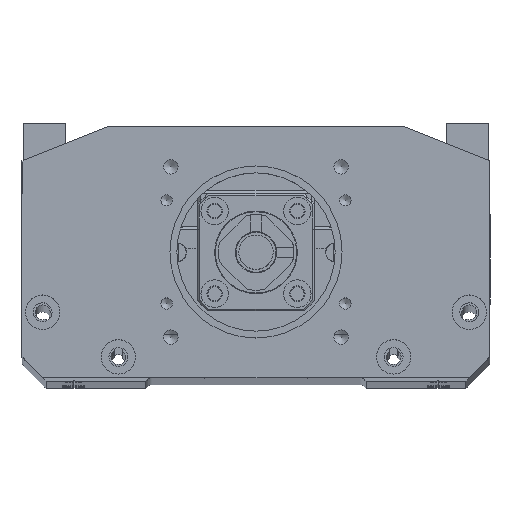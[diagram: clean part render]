
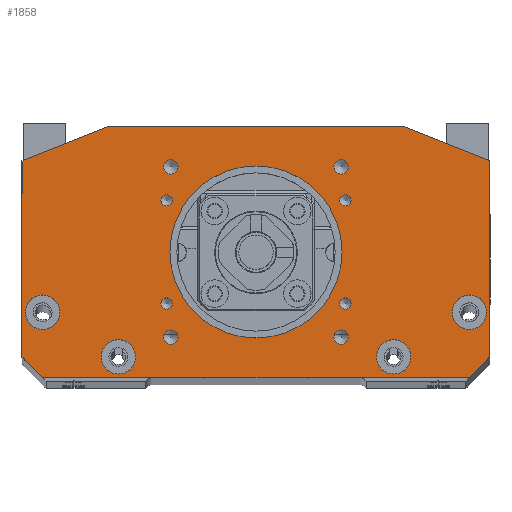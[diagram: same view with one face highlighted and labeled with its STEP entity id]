
A CAD part, top view. The second image highlights one B-rep face of the part: STEP entity #1858.
In plain terms, the highlighted planar face has unit normal (0, 0, 1).
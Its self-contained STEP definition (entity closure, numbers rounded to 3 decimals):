
#396=FACE_BOUND('',#3698,.T.);
#397=FACE_BOUND('',#3699,.T.);
#398=FACE_BOUND('',#3700,.T.);
#399=FACE_BOUND('',#3701,.T.);
#400=FACE_BOUND('',#3702,.T.);
#401=FACE_BOUND('',#3703,.T.);
#402=FACE_BOUND('',#3704,.T.);
#403=FACE_BOUND('',#3705,.T.);
#404=FACE_BOUND('',#3706,.T.);
#405=FACE_BOUND('',#3707,.T.);
#406=FACE_BOUND('',#3708,.T.);
#407=FACE_BOUND('',#3709,.T.);
#408=FACE_BOUND('',#3710,.T.);
#409=FACE_BOUND('',#3711,.T.);
#1858=ADVANCED_FACE('9',(#396,#397,#398,#399,#400,#401,#402,#403,#404,#405,
#406,#407,#408,#409),#2528,.T.);
#2528=PLANE('',#15617);
#3698=EDGE_LOOP('',(#6952));
#3699=EDGE_LOOP('',(#6953));
#3700=EDGE_LOOP('',(#6954));
#3701=EDGE_LOOP('',(#6955));
#3702=EDGE_LOOP('',(#6956));
#3703=EDGE_LOOP('',(#6957));
#3704=EDGE_LOOP('',(#6958));
#3705=EDGE_LOOP('',(#6959));
#3706=EDGE_LOOP('',(#6960));
#3707=EDGE_LOOP('',(#6961));
#3708=EDGE_LOOP('',(#6962));
#3709=EDGE_LOOP('',(#6963));
#3710=EDGE_LOOP('',(#6964));
#3711=EDGE_LOOP('',(#6965,#6966,#6967,#6968,#6969,#6970,#6971,#6972));
#4936=CIRCLE('',#15555,1.65);
#4938=CIRCLE('',#15559,1.65);
#4940=CIRCLE('',#15563,1.65);
#4942=CIRCLE('',#15567,1.65);
#4944=CIRCLE('',#15571,2.1);
#4946=CIRCLE('',#15575,2.1);
#4948=CIRCLE('',#15579,2.1);
#4950=CIRCLE('',#15583,2.1);
#4952=CIRCLE('',#15587,25.);
#4954=CIRCLE('',#15590,5.);
#4958=CIRCLE('',#15596,5.);
#4962=CIRCLE('',#15602,5.);
#4966=CIRCLE('',#15608,5.);
#6952=ORIENTED_EDGE('',*,*,#11927,.F.);
#6953=ORIENTED_EDGE('',*,*,#11929,.F.);
#6954=ORIENTED_EDGE('',*,*,#11931,.F.);
#6955=ORIENTED_EDGE('',*,*,#11933,.F.);
#6956=ORIENTED_EDGE('',*,*,#11935,.F.);
#6957=ORIENTED_EDGE('',*,*,#11937,.F.);
#6958=ORIENTED_EDGE('',*,*,#11939,.F.);
#6959=ORIENTED_EDGE('',*,*,#11941,.F.);
#6960=ORIENTED_EDGE('',*,*,#11943,.F.);
#6961=ORIENTED_EDGE('',*,*,#11945,.F.);
#6962=ORIENTED_EDGE('',*,*,#11949,.F.);
#6963=ORIENTED_EDGE('',*,*,#11953,.F.);
#6964=ORIENTED_EDGE('',*,*,#11957,.F.);
#6965=ORIENTED_EDGE('',*,*,#11265,.F.);
#6966=ORIENTED_EDGE('',*,*,#11966,.T.);
#6967=ORIENTED_EDGE('',*,*,#11965,.F.);
#6968=ORIENTED_EDGE('',*,*,#11967,.T.);
#6969=ORIENTED_EDGE('',*,*,#11335,.F.);
#6970=ORIENTED_EDGE('',*,*,#11320,.T.);
#6971=ORIENTED_EDGE('',*,*,#11306,.F.);
#6972=ORIENTED_EDGE('',*,*,#11291,.T.);
#9747=VERTEX_POINT('',#21741);
#9748=VERTEX_POINT('',#21743);
#9765=VERTEX_POINT('',#21788);
#9775=VERTEX_POINT('',#21816);
#9783=VERTEX_POINT('',#21841);
#9791=VERTEX_POINT('',#21866);
#10177=VERTEX_POINT('',#24402);
#10180=VERTEX_POINT('',#24409);
#10183=VERTEX_POINT('',#24416);
#10186=VERTEX_POINT('',#24423);
#10189=VERTEX_POINT('',#24430);
#10192=VERTEX_POINT('',#24437);
#10195=VERTEX_POINT('',#24444);
#10198=VERTEX_POINT('',#24451);
#10201=VERTEX_POINT('',#24458);
#10203=VERTEX_POINT('',#24463);
#10206=VERTEX_POINT('',#24472);
#10209=VERTEX_POINT('',#24481);
#10212=VERTEX_POINT('',#24490);
#10216=VERTEX_POINT('',#24502);
#10218=VERTEX_POINT('',#24506);
#11265=EDGE_CURVE('',#9747,#9748,#13123,.T.);
#11291=EDGE_CURVE('',#9765,#9748,#13147,.T.);
#11306=EDGE_CURVE('',#9765,#9775,#13160,.T.);
#11320=EDGE_CURVE('',#9783,#9775,#13172,.T.);
#11335=EDGE_CURVE('',#9783,#9791,#13185,.T.);
#11927=EDGE_CURVE('',#10177,#10177,#4936,.T.);
#11929=EDGE_CURVE('',#10180,#10180,#4938,.T.);
#11931=EDGE_CURVE('',#10183,#10183,#4940,.T.);
#11933=EDGE_CURVE('',#10186,#10186,#4942,.T.);
#11935=EDGE_CURVE('',#10189,#10189,#4944,.T.);
#11937=EDGE_CURVE('',#10192,#10192,#4946,.T.);
#11939=EDGE_CURVE('',#10195,#10195,#4948,.T.);
#11941=EDGE_CURVE('',#10198,#10198,#4950,.T.);
#11943=EDGE_CURVE('',#10201,#10201,#4952,.T.);
#11945=EDGE_CURVE('',#10203,#10203,#4954,.T.);
#11949=EDGE_CURVE('',#10206,#10206,#4958,.T.);
#11953=EDGE_CURVE('',#10209,#10209,#4962,.T.);
#11957=EDGE_CURVE('',#10212,#10212,#4966,.T.);
#11965=EDGE_CURVE('',#10218,#10216,#13464,.T.);
#11966=EDGE_CURVE('',#9747,#10216,#13465,.T.);
#11967=EDGE_CURVE('',#10218,#9791,#13466,.T.);
#13123=LINE('',#21742,#14138);
#13147=LINE('',#21787,#14162);
#13160=LINE('',#21815,#14175);
#13172=LINE('',#21840,#14187);
#13185=LINE('',#21865,#14200);
#13464=LINE('',#24507,#14479);
#13465=LINE('',#24509,#14480);
#13466=LINE('',#24510,#14481);
#14138=VECTOR('',#17256,1.);
#14162=VECTOR('',#17288,1.);
#14175=VECTOR('',#17311,1.);
#14187=VECTOR('',#17333,1.);
#14200=VECTOR('',#17354,1.);
#14479=VECTOR('',#18519,1.);
#14480=VECTOR('',#18522,1.);
#14481=VECTOR('',#18523,1.);
#15555=AXIS2_PLACEMENT_3D('',#24401,#18394,#18395);
#15559=AXIS2_PLACEMENT_3D('',#24408,#18402,#18403);
#15563=AXIS2_PLACEMENT_3D('',#24415,#18410,#18411);
#15567=AXIS2_PLACEMENT_3D('',#24422,#18418,#18419);
#15571=AXIS2_PLACEMENT_3D('',#24429,#18426,#18427);
#15575=AXIS2_PLACEMENT_3D('',#24436,#18434,#18435);
#15579=AXIS2_PLACEMENT_3D('',#24443,#18442,#18443);
#15583=AXIS2_PLACEMENT_3D('',#24450,#18450,#18451);
#15587=AXIS2_PLACEMENT_3D('',#24457,#18458,#18459);
#15590=AXIS2_PLACEMENT_3D('',#24462,#18464,#18465);
#15596=AXIS2_PLACEMENT_3D('',#24471,#18476,#18477);
#15602=AXIS2_PLACEMENT_3D('',#24480,#18488,#18489);
#15608=AXIS2_PLACEMENT_3D('',#24489,#18500,#18501);
#15617=AXIS2_PLACEMENT_3D('',#24511,#18524,#18525);
#17256=DIRECTION('',(0.,-1.,0.));
#17288=DIRECTION('',(0.707,0.707,0.));
#17311=DIRECTION('',(-1.,0.,0.));
#17333=DIRECTION('',(0.707,-0.707,0.));
#17354=DIRECTION('',(0.,1.,0.));
#18394=DIRECTION('',(0.,0.,1.));
#18395=DIRECTION('',(1.,0.,0.));
#18402=DIRECTION('',(0.,0.,1.));
#18403=DIRECTION('',(1.,0.,0.));
#18410=DIRECTION('',(0.,0.,1.));
#18411=DIRECTION('',(1.,0.,0.));
#18418=DIRECTION('',(0.,0.,1.));
#18419=DIRECTION('',(1.,0.,0.));
#18426=DIRECTION('',(0.,0.,1.));
#18427=DIRECTION('',(1.,0.,0.));
#18434=DIRECTION('',(0.,0.,1.));
#18435=DIRECTION('',(1.,0.,0.));
#18442=DIRECTION('',(0.,0.,1.));
#18443=DIRECTION('',(1.,0.,0.));
#18450=DIRECTION('',(0.,0.,1.));
#18451=DIRECTION('',(1.,0.,0.));
#18458=DIRECTION('',(0.,0.,1.));
#18459=DIRECTION('',(1.,0.,0.));
#18464=DIRECTION('',(0.,0.,1.));
#18465=DIRECTION('',(1.,0.,0.));
#18476=DIRECTION('',(0.,0.,1.));
#18477=DIRECTION('',(1.,0.,0.));
#18488=DIRECTION('',(0.,0.,1.));
#18489=DIRECTION('',(1.,0.,0.));
#18500=DIRECTION('',(0.,0.,1.));
#18501=DIRECTION('',(1.,0.,0.));
#18519=DIRECTION('',(1.,0.,0.));
#18522=DIRECTION('',(-0.928,0.371,0.));
#18523=DIRECTION('',(-0.928,-0.371,0.));
#18524=DIRECTION('',(0.,0.,1.));
#18525=DIRECTION('',(-1.,0.,0.));
#21741=CARTESIAN_POINT('',(68.,63.,180.));
#21742=CARTESIAN_POINT('',(68.,0.,180.));
#21743=CARTESIAN_POINT('',(68.,6.,180.));
#21787=CARTESIAN_POINT('',(49.25,-12.75,180.));
#21788=CARTESIAN_POINT('',(62.,0.,180.));
#21815=CARTESIAN_POINT('',(68.,0.,180.));
#21816=CARTESIAN_POINT('',(-62.,0.,180.));
#21840=CARTESIAN_POINT('',(-49.25,-12.75,180.));
#21841=CARTESIAN_POINT('',(-68.,6.,180.));
#21865=CARTESIAN_POINT('',(-68.,0.,180.));
#21866=CARTESIAN_POINT('',(-68.,63.,180.));
#24401=CARTESIAN_POINT('',(25.981,51.5,180.));
#24402=CARTESIAN_POINT('',(27.631,51.5,180.));
#24408=CARTESIAN_POINT('',(25.981,21.5,180.));
#24409=CARTESIAN_POINT('',(27.631,21.5,180.));
#24415=CARTESIAN_POINT('',(-25.981,21.5,180.));
#24416=CARTESIAN_POINT('',(-24.331,21.5,180.));
#24422=CARTESIAN_POINT('',(-25.981,51.5,180.));
#24423=CARTESIAN_POINT('',(-24.331,51.5,180.));
#24429=CARTESIAN_POINT('',(-24.749,61.249,180.));
#24430=CARTESIAN_POINT('',(-22.649,61.249,180.));
#24436=CARTESIAN_POINT('',(24.749,61.249,180.));
#24437=CARTESIAN_POINT('',(26.849,61.249,180.));
#24443=CARTESIAN_POINT('',(24.749,11.751,180.));
#24444=CARTESIAN_POINT('',(26.849,11.751,180.));
#24450=CARTESIAN_POINT('',(-24.749,11.751,180.));
#24451=CARTESIAN_POINT('',(-22.649,11.751,180.));
#24457=CARTESIAN_POINT('',(0.,36.5,180.));
#24458=CARTESIAN_POINT('',(25.,36.5,180.));
#24462=CARTESIAN_POINT('',(-62.,19.,180.));
#24463=CARTESIAN_POINT('',(-57.,19.,180.));
#24471=CARTESIAN_POINT('',(62.,19.,180.));
#24472=CARTESIAN_POINT('',(67.,19.,180.));
#24480=CARTESIAN_POINT('',(-40.,6.,180.));
#24481=CARTESIAN_POINT('',(-35.,6.,180.));
#24489=CARTESIAN_POINT('',(40.,6.,180.));
#24490=CARTESIAN_POINT('',(45.,6.,180.));
#24502=CARTESIAN_POINT('',(43.,73.,180.));
#24506=CARTESIAN_POINT('',(-43.,73.,180.));
#24507=CARTESIAN_POINT('',(68.,73.,180.));
#24509=CARTESIAN_POINT('',(18.517,82.793,180.));
#24510=CARTESIAN_POINT('',(-18.517,82.793,180.));
#24511=CARTESIAN_POINT('',(0.,36.5,180.));
